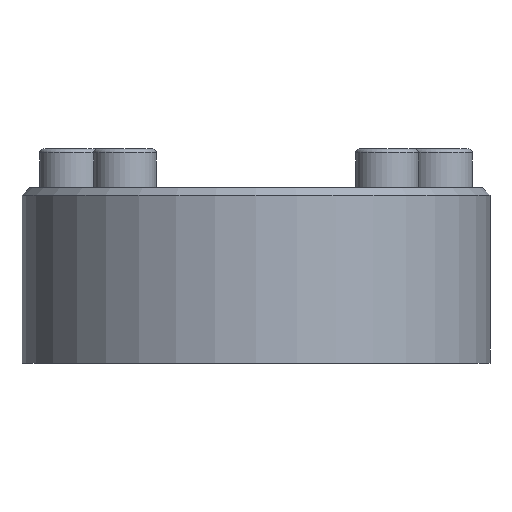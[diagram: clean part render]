
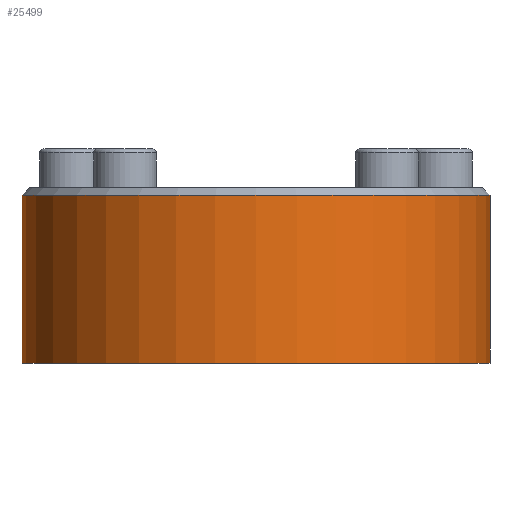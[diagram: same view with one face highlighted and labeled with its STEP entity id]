
A CAD part, front view. The second image highlights one B-rep face of the part: STEP entity #25499.
In plain terms, the highlighted cylindrical face has radius 60 mm (diameter 120 mm), a partial arc.
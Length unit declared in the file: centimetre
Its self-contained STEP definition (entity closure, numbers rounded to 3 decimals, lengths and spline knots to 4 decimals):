
#1484=CYLINDRICAL_SURFACE('',#26851,6.);
#2847=FACE_OUTER_BOUND('',#4195,.T.);
#4195=EDGE_LOOP('',(#17287,#17288,#17289,#17290));
#5673=LINE('',#32482,#8401);
#5677=LINE('',#32491,#8405);
#8401=VECTOR('',#27823,4.3);
#8405=VECTOR('',#27829,4.3);
#11129=CIRCLE('',#26852,6.);
#11130=CIRCLE('',#26853,6.);
#11171=VERTEX_POINT('',#32480);
#11172=VERTEX_POINT('',#32481);
#11175=VERTEX_POINT('',#32489);
#11176=VERTEX_POINT('',#32490);
#13619=EDGE_CURVE('',#11171,#11172,#5673,.T.);
#13623=EDGE_CURVE('',#11175,#11176,#5677,.T.);
#13624=EDGE_CURVE('',#11172,#11176,#11129,.T.);
#13625=EDGE_CURVE('',#11175,#11171,#11130,.T.);
#17287=ORIENTED_EDGE('',*,*,#13623,.T.);
#17288=ORIENTED_EDGE('',*,*,#13624,.F.);
#17289=ORIENTED_EDGE('',*,*,#13619,.F.);
#17290=ORIENTED_EDGE('',*,*,#13625,.F.);
#25499=ADVANCED_FACE('',(#2847),#1484,.T.);
#26851=AXIS2_PLACEMENT_3D('',#32488,#27827,#27828);
#26852=AXIS2_PLACEMENT_3D('',#32492,#27830,#27831);
#26853=AXIS2_PLACEMENT_3D('',#32493,#27832,#27833);
#27823=DIRECTION('',(0.,0.,1.));
#27827=DIRECTION('center_axis',(0.,0.,
-1.));
#27828=DIRECTION('ref_axis',(-1.,0.,0.));
#27829=DIRECTION('',(0.,0.,1.));
#27830=DIRECTION('center_axis',(0.,0.,
1.));
#27831=DIRECTION('ref_axis',(-1.,0.,0.));
#27832=DIRECTION('center_axis',(0.,0.,
-1.));
#27833=DIRECTION('ref_axis',(1.,0.,0.));
#32480=CARTESIAN_POINT('',(-6.,-7.5,-3.3));
#32481=CARTESIAN_POINT('',(-6.,-7.5,1.));
#32482=CARTESIAN_POINT('',(-6.,-7.5,-3.3));
#32488=CARTESIAN_POINT('Origin',(0.,-7.5,1.2));
#32489=CARTESIAN_POINT('',(6.,-7.5,-3.3));
#32490=CARTESIAN_POINT('',(6.,-7.5,1.));
#32491=CARTESIAN_POINT('',(6.,-7.5,-3.3));
#32492=CARTESIAN_POINT('Origin',(0.,-7.5,1.));
#32493=CARTESIAN_POINT('Origin',(0.,-7.5,
-3.3));
